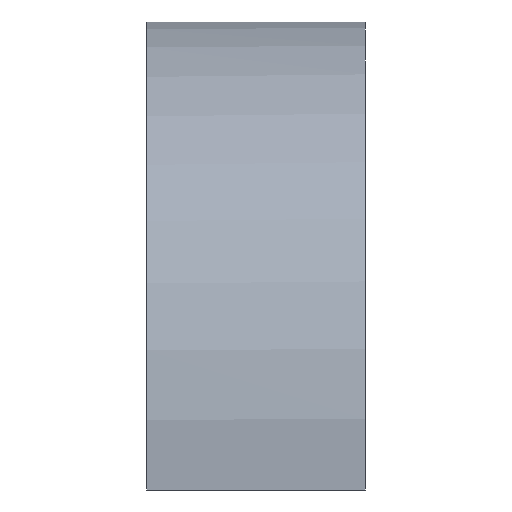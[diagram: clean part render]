
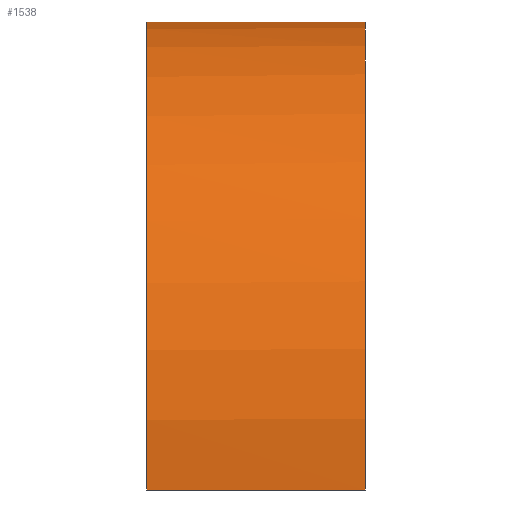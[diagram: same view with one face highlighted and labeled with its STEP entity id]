
A CAD part, left-side view. The second image highlights one B-rep face of the part: STEP entity #1538.
In plain terms, the highlighted cylindrical face has radius 29.2 mm (diameter 58.4 mm), a partial arc.
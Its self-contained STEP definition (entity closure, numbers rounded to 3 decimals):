
#602=CARTESIAN_POINT('',(0.,35.,362.));
#603=DIRECTION('',(0.,1.,0.));
#604=DIRECTION('',(-0.995,0.,-0.103));
#605=AXIS2_PLACEMENT_3D('',#602,#603,#604);
#863=DIRECTION('',(0.,1.,0.));
#864=VECTOR('',#863,15.);
#865=CARTESIAN_POINT('',(-29.045,35.,359.));
#866=LINE('',#865,#864);
#870=DIRECTION('',(0.,-1.,0.));
#871=VECTOR('',#870,10.);
#872=CARTESIAN_POINT('',(-0.5,50.,391.196));
#873=LINE('',#872,#871);
#877=CARTESIAN_POINT('',(0.,40.,362.));
#878=DIRECTION('',(0.,1.,0.));
#879=DIRECTION('',(-0.017,0.,1.));
#880=AXIS2_PLACEMENT_3D('',#877,#878,#879);
#885=DIRECTION('',(0.,1.,0.));
#886=VECTOR('',#885,10.);
#887=CARTESIAN_POINT('',(0.5,40.,391.196));
#888=LINE('',#887,#886);
#892=DIRECTION('',(0.,-1.,0.));
#893=VECTOR('',#892,15.);
#894=CARTESIAN_POINT('',(29.045,50.,359.));
#895=LINE('',#894,#893);
#921=CARTESIAN_POINT('',(0.,50.,362.));
#922=DIRECTION('',(0.,-1.,0.));
#923=DIRECTION('',(-0.017,0.,1.));
#924=AXIS2_PLACEMENT_3D('',#921,#922,#923);
#973=CARTESIAN_POINT('',(0.,50.,362.));
#974=DIRECTION('',(0.,-1.,0.));
#975=DIRECTION('',(0.995,0.,-0.103));
#976=AXIS2_PLACEMENT_3D('',#973,#974,#975);
#981=CARTESIAN_POINT('',(0.,50.,362.));
#982=DIRECTION('',(0.,-1.,0.));
#983=DIRECTION('',(1.,0.,0.));
#984=AXIS2_PLACEMENT_3D('',#981,#982,#983);
#993=CARTESIAN_POINT('',(-29.045,50.,359.));
#994=VERTEX_POINT('',#993);
#995=CARTESIAN_POINT('',(-29.045,35.,359.));
#996=VERTEX_POINT('',#995);
#1019=CARTESIAN_POINT('',(29.045,35.,359.));
#1020=VERTEX_POINT('',#1019);
#1021=CARTESIAN_POINT('',(-0.5,50.,391.196));
#1022=VERTEX_POINT('',#1021);
#1023=CARTESIAN_POINT('',(-0.5,40.,391.196));
#1024=VERTEX_POINT('',#1023);
#1025=CARTESIAN_POINT('',(0.5,40.,391.196));
#1026=VERTEX_POINT('',#1025);
#1027=CARTESIAN_POINT('',(0.5,50.,391.196));
#1028=VERTEX_POINT('',#1027);
#1029=CARTESIAN_POINT('',(29.2,50.,362.));
#1030=VERTEX_POINT('',#1029);
#1031=CARTESIAN_POINT('',(29.045,50.,359.));
#1032=VERTEX_POINT('',#1031);
#1515=CARTESIAN_POINT('',(0.,35.,362.));
#1516=DIRECTION('',(0.,-1.,0.));
#1517=DIRECTION('',(-1.,0.,0.));
#1518=AXIS2_PLACEMENT_3D('',#1515,#1516,#1517);
#1519=CYLINDRICAL_SURFACE('',#1518,29.2);
#1520=ORIENTED_EDGE('',*,*,#1273,.F.);
#1521=ORIENTED_EDGE('',*,*,#1110,.T.);
#1523=ORIENTED_EDGE('',*,*,#1522,.F.);
#1525=ORIENTED_EDGE('',*,*,#1524,.T.);
#1527=ORIENTED_EDGE('',*,*,#1526,.T.);
#1529=ORIENTED_EDGE('',*,*,#1528,.T.);
#1531=ORIENTED_EDGE('',*,*,#1530,.F.);
#1533=ORIENTED_EDGE('',*,*,#1532,.F.);
#1535=ORIENTED_EDGE('',*,*,#1534,.T.);
#1536=EDGE_LOOP('',(#1520,#1521,#1523,#1525,#1527,#1529,#1531,#1533,#1535));
#1537=FACE_OUTER_BOUND('',#1536,.F.);
#606=CIRCLE('',#605,29.2);
#881=CIRCLE('',#880,29.2);
#925=CIRCLE('',#924,29.2);
#977=CIRCLE('',#976,29.2);
#985=CIRCLE('',#984,29.2);
#1110=EDGE_CURVE('',#996,#994,#866,.T.);
#1273=EDGE_CURVE('',#996,#1020,#606,.T.);
#1522=EDGE_CURVE('',#1022,#994,#925,.T.);
#1524=EDGE_CURVE('',#1022,#1024,#873,.T.);
#1526=EDGE_CURVE('',#1024,#1026,#881,.T.);
#1528=EDGE_CURVE('',#1026,#1028,#888,.T.);
#1530=EDGE_CURVE('',#1030,#1028,#985,.T.);
#1532=EDGE_CURVE('',#1032,#1030,#977,.T.);
#1534=EDGE_CURVE('',#1032,#1020,#895,.T.);
#1538=ADVANCED_FACE('',(#1537),#1519,.T.);
